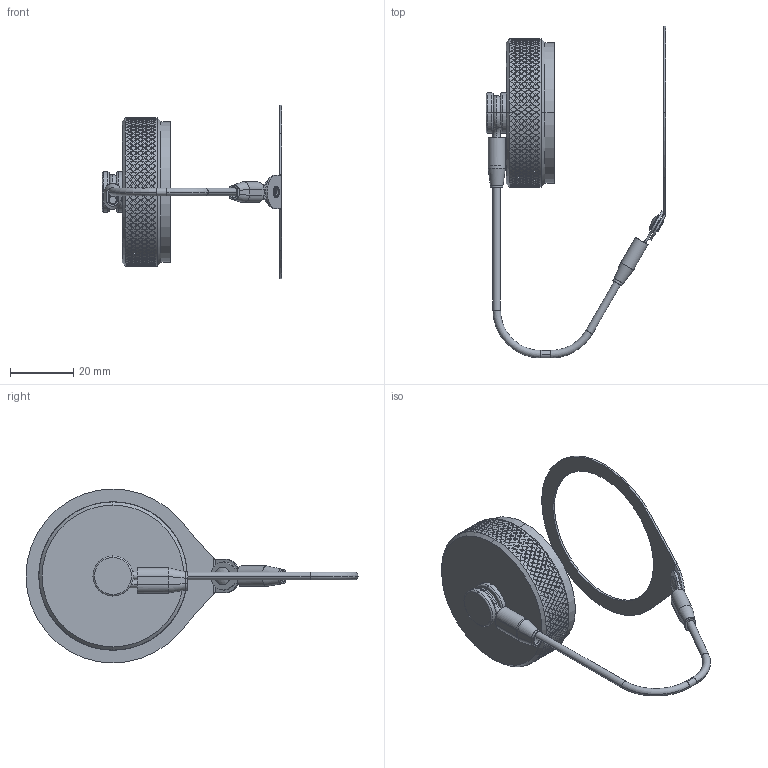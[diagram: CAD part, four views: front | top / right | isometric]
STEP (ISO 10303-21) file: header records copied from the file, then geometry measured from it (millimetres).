
FILE_DESCRIPTION (( 'STEP AP214' ), '1' );
FILE_NAME ('Q38DC-RJX-25-R0.STEP', '2026-04-22T20:37:23', ( '' ), ( '' ), 'SwSTEP 2.0', 'SolidWorks 2024', '' );
FILE_SCHEMA (( 'AUTOMOTIVE_DESIGN' ));
Length unit declared in the file: inch
Products named in the file (11): SW-XRXX_SW-BR25; SW-348; SW-347; Q38-XX29-P_25R; HEAT SHRINK_HS-250X625_SW-348; Lanyard Assembly Q38_Q38DC-RJX-25; Q38-XX48-X_Q38-2548-X; HEAT SHRINK_HS-125-625S; SW-349_SW-349; Q38DC-RJX-25-R0; LN-06-07-13_Q38DC-RJX-25
Assembly tree (10 placements, depth 3):
  Q38DC-RJX-25-R0
    Q38-XX48-X_Q38-2548-X
    Lanyard Assembly Q38_Q38DC-RJX-25
      LN-06-07-13_Q38DC-RJX-25
      SW-348
      HEAT SHRINK_HS-250X625_SW-348
      SW-347
      HEAT SHRINK_HS-125-625S
      SW-349_SW-349
      SW-XRXX_SW-BR25
    Q38-XX29-P_25R
Bounding box: 56.9 x 104.97 x 55 mm (x, y, z)
Volume: 12241 mm3; surface area: 14774.7 mm2
Topology: 9 solids, 9 shells, 3434 faces, 8477 edges, 5624 vertices
Faces by surface type: plane 2643, cylinder 741, torus 26, bspline 16, cone 6, sphere 2
Entity records: 101603 total; most frequent: CARTESIAN_POINT 35120, ORIENTED_EDGE 16954, DIRECTION 10338, EDGE_CURVE 8477, VERTEX_POINT 5624, EDGE_LOOP 4011, AXIS2_PLACEMENT_3D 3804, FACE_OUTER_BOUND 3434
